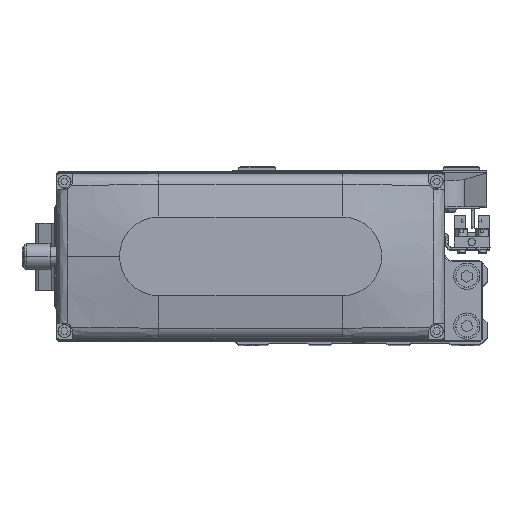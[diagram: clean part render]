
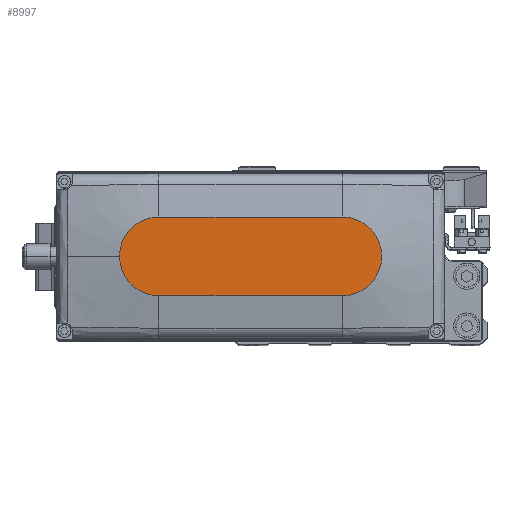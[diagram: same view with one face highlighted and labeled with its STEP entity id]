
A CAD part, top view. The second image highlights one B-rep face of the part: STEP entity #8997.
In plain terms, the highlighted planar face has unit normal (0, 0, 1).
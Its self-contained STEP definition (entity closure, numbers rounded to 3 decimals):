
#492 = LINE ( 'NONE', #13781, #35973 ) ;
#1316 = DIRECTION ( 'NONE',  ( 1., 0., 0. ) ) ;
#2615 = ORIENTED_EDGE ( 'NONE', *, *, #42674, .T. ) ;
#2733 = CIRCLE ( 'NONE', #27040, 15. ) ;
#3547 = CARTESIAN_POINT ( 'NONE',  ( 35., 0., 35. ) ) ;
#4114 = AXIS2_PLACEMENT_3D ( 'NONE', #3547, #16806, #30088 ) ;
#6561 = EDGE_CURVE ( 'NONE', #39030, #39225, #34567, .T. ) ;
#7175 = CARTESIAN_POINT ( 'NONE',  ( 50., 0., 35. ) ) ;
#7357 = ORIENTED_EDGE ( 'NONE', *, *, #6561, .T. ) ;
#8997 = ADVANCED_FACE ( 'NONE', ( #28411 ), #41627, .T. ) ;
#9502 = CARTESIAN_POINT ( 'NONE',  ( 35., 15., 35. ) ) ;
#11867 = CARTESIAN_POINT ( 'NONE',  ( 0., 0., 35. ) ) ;
#12308 = CARTESIAN_POINT ( 'NONE',  ( -35., 15., 35. ) ) ;
#13128 = CARTESIAN_POINT ( 'NONE',  ( 35., 0., 35. ) ) ;
#13781 = CARTESIAN_POINT ( 'NONE',  ( -35., -15., 35. ) ) ;
#14611 = VERTEX_POINT ( 'NONE', #32457 ) ;
#15804 = AXIS2_PLACEMENT_3D ( 'NONE', #13128, #26374, #39631 ) ;
#16277 = EDGE_LOOP ( 'NONE', ( #25391, #16880, #34663, #2615, #7357 ) ) ;
#16806 = DIRECTION ( 'NONE',  ( 0., 0., 1. ) ) ;
#16880 = ORIENTED_EDGE ( 'NONE', *, *, #30993, .T. ) ;
#17840 = CARTESIAN_POINT ( 'NONE',  ( -35., 0., 35. ) ) ;
#22852 = CIRCLE ( 'NONE', #4114, 15. ) ;
#24887 = AXIS2_PLACEMENT_3D ( 'NONE', #11867, #25102, #38374 ) ;
#25102 = DIRECTION ( 'NONE',  ( 0., 0., 1. ) ) ;
#25391 = ORIENTED_EDGE ( 'NONE', *, *, #35933, .T. ) ;
#25553 = DIRECTION ( 'NONE',  ( -1., 0., 0. ) ) ;
#26374 = DIRECTION ( 'NONE',  ( 0., 0., 1. ) ) ;
#26831 = VECTOR ( 'NONE', #25553, 1000. ) ;
#27040 = AXIS2_PLACEMENT_3D ( 'NONE', #17840, #31131, #1316 ) ;
#27046 = DIRECTION ( 'NONE',  ( 1., 0., 0. ) ) ;
#28411 = FACE_OUTER_BOUND ( 'NONE', #16277, .T. ) ;
#29485 = VERTEX_POINT ( 'NONE', #32343 ) ;
#30088 = DIRECTION ( 'NONE',  ( 1., 0., 0. ) ) ;
#30993 = EDGE_CURVE ( 'NONE', #29485, #14611, #2733, .T. ) ;
#31131 = DIRECTION ( 'NONE',  ( 0., 0., 1. ) ) ;
#32343 = CARTESIAN_POINT ( 'NONE',  ( -35., 15., 35. ) ) ;
#32457 = CARTESIAN_POINT ( 'NONE',  ( -35., -15., 35. ) ) ;
#34132 = VERTEX_POINT ( 'NONE', #34546 ) ;
#34546 = CARTESIAN_POINT ( 'NONE',  ( 35., -15., 35. ) ) ;
#34567 = CIRCLE ( 'NONE', #15804, 15. ) ;
#34663 = ORIENTED_EDGE ( 'NONE', *, *, #39691, .T. ) ;
#35933 = EDGE_CURVE ( 'NONE', #39225, #29485, #42060, .T. ) ;
#35973 = VECTOR ( 'NONE', #27046, 1000. ) ;
#38374 = DIRECTION ( 'NONE',  ( 1., 0., 0. ) ) ;
#39030 = VERTEX_POINT ( 'NONE', #7175 ) ;
#39225 = VERTEX_POINT ( 'NONE', #9502 ) ;
#39631 = DIRECTION ( 'NONE',  ( 1., 0., 0. ) ) ;
#39691 = EDGE_CURVE ( 'NONE', #14611, #34132, #492, .T. ) ;
#41627 = PLANE ( 'NONE',  #24887 ) ;
#42060 = LINE ( 'NONE', #12308, #26831 ) ;
#42674 = EDGE_CURVE ( 'NONE', #34132, #39030, #22852, .T. ) ;
